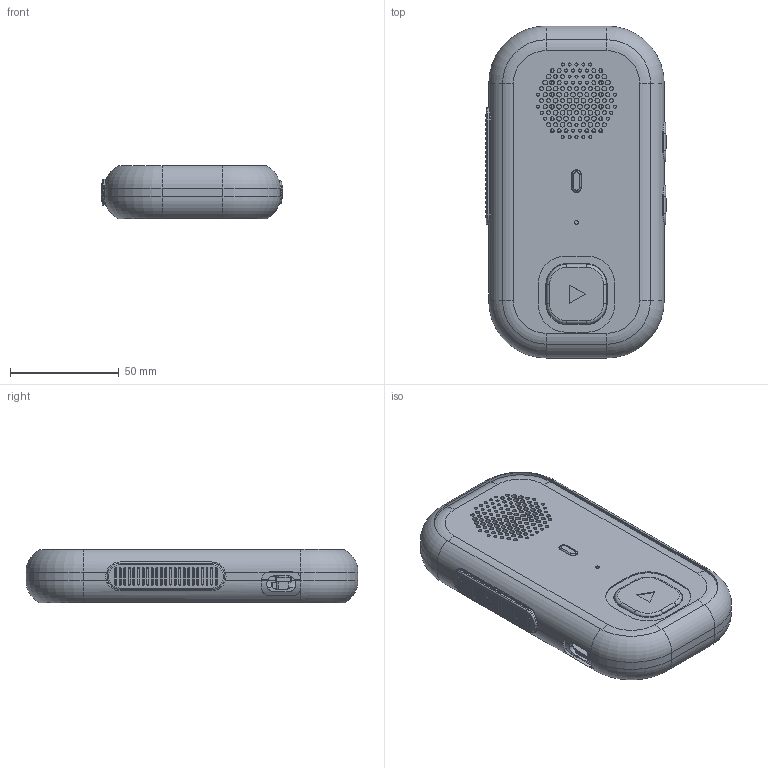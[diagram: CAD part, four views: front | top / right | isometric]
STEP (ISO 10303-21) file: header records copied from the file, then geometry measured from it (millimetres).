
FILE_DESCRIPTION(('Open CASCADE Model'),'2;1');
FILE_NAME('Walkie_One_Concept_27_R1_17_Manufactured_Parts', '2026-09-09T13:54:19',('Author'),('Open CASCADE'), 'Open CASCADE STEP processor 7.9','build123d','Unknown');
FILE_SCHEMA(('AUTOMOTIVE_DESIGN { 1 0 10303 214 1 1 1 1 }'));
Length unit declared in the file: millimetre
Products named in the file (18): Walkie_One_Concept_27_R1_17_Manufactured_Parts; C27_01_Front_Shell_Chalk_Centered_Mic; C27_02_Back_Shell_Chalk_Unchanged; C27_03_Front_Action_Rigid_Carrier; C27_04_Status_Lens_Unchanged; C27_05_Front_Switch_Clamp_Unchanged; C27_06_PTT_Rigid_Carrier; C27_07_Volume_Up_Rigid_Carrier; C27_08_Volume_Down_Rigid_Carrier; C27_09_Warm_Grey_Elastomer_Rim; C27_10_Front_Action_Pewter_Cap; C27_11_Front_Action_Bond_Film; C27_12_Volume_Up_Pewter_Cap; C27_13_Volume_Up_Bond_Film; C27_14_Volume_Down_Pewter_Cap; C27_15_Volume_Down_Bond_Film; C27_16_Orange_Ribbed_PTT_Grip; C27_17_PTT_Bond_Film
Assembly tree (17 placements, depth 2):
  Walkie_One_Concept_27_R1_17_Manufactured_Parts
    C27_01_Front_Shell_Chalk_Centered_Mic
    C27_02_Back_Shell_Chalk_Unchanged
    C27_03_Front_Action_Rigid_Carrier
    C27_04_Status_Lens_Unchanged
    C27_05_Front_Switch_Clamp_Unchanged
    C27_06_PTT_Rigid_Carrier
    C27_07_Volume_Up_Rigid_Carrier
    C27_08_Volume_Down_Rigid_Carrier
    C27_09_Warm_Grey_Elastomer_Rim
    C27_10_Front_Action_Pewter_Cap
    C27_11_Front_Action_Bond_Film
    C27_12_Volume_Up_Pewter_Cap
    C27_13_Volume_Up_Bond_Film
    C27_14_Volume_Down_Pewter_Cap
    C27_15_Volume_Down_Bond_Film
    C27_16_Orange_Ribbed_PTT_Grip
    C27_17_PTT_Bond_Film
Bounding box: 83.35 x 152.7 x 24.74 mm (x, y, z)
Volume: 77187.1 mm3; surface area: 102143.9 mm2
Topology: 17 solids, 19 shells, 2985 faces, 8173 edges, 5326 vertices
Faces by surface type: plane 1297, cylinder 1160, bspline 352, torus 176
Full cylindrical faces by diameter (mm): 1.4 x32, 1.5 x4, 1.7 x12, 1.8 x49, 2.1 x4, 2.2 x42, 2.6 x6, 2.8 x4, 2.9 x8, 3 x3, 4.2 x8, 5 x1, 5.3 x1, 5.4 x1, 5.5 x1, 8 x1
Entity records: 222123 total; most frequent: CARTESIAN_POINT 64464, DIRECTION 27486, ORIENTED_EDGE 16346, PCURVE 16346, DEFINITIONAL_REPRESENTATION 16346, LINE 15822, VECTOR 15822, EDGE_CURVE 8173
